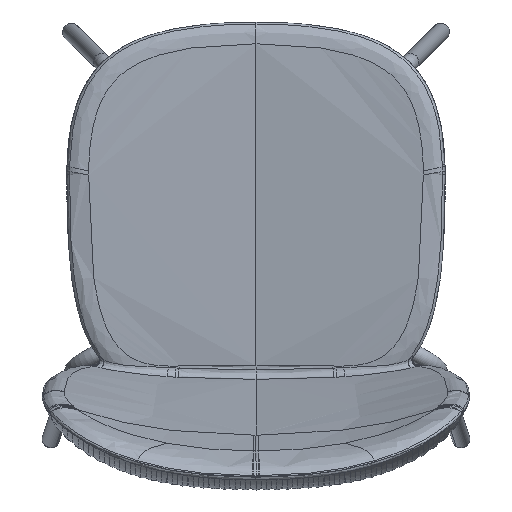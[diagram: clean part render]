
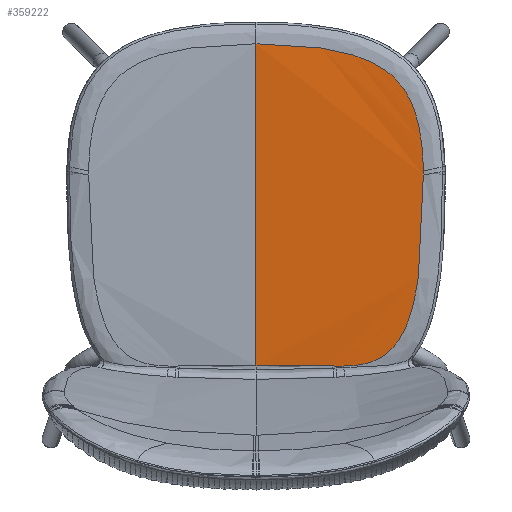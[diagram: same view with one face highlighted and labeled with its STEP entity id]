
A CAD part, top view. The second image highlights one B-rep face of the part: STEP entity #359222.
In plain terms, the highlighted free-form (B-spline) face has degree [5, 1] with [6, 2] control points.
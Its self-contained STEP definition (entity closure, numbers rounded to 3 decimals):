
#321123=CARTESIAN_POINT('Vertex',(0.,394.686,458.71)) ;
#321127=CARTESIAN_POINT('Control Point',(0.,394.686,458.71)) ;
#321128=CARTESIAN_POINT('Control Point',(11.598,394.686,458.71)) ;
#321129=CARTESIAN_POINT('Control Point',(23.195,394.455,458.819)) ;
#321130=CARTESIAN_POINT('Control Point',(34.538,393.962,459.031)) ;
#321131=CARTESIAN_POINT('Control Point',(55.247,392.574,459.591)) ;
#321132=CARTESIAN_POINT('Control Point',(76.746,389.767,460.511)) ;
#321133=CARTESIAN_POINT('Control Point',(86.215,388.17,460.985)) ;
#321134=CARTESIAN_POINT('Control Point',(101.418,384.997,461.836)) ;
#321135=CARTESIAN_POINT('Control Point',(116.638,380.273,462.817)) ;
#321136=CARTESIAN_POINT('Control Point',(122.396,378.203,463.205)) ;
#321137=CARTESIAN_POINT('Control Point',(133.26,373.662,463.959)) ;
#321138=CARTESIAN_POINT('Control Point',(143.537,367.828,464.691)) ;
#321139=CARTESIAN_POINT('Control Point',(148.302,364.678,465.029)) ;
#321140=CARTESIAN_POINT('Control Point',(156.936,357.933,465.624)) ;
#321141=CARTESIAN_POINT('Control Point',(164.378,349.934,466.076)) ;
#321142=CARTESIAN_POINT('Control Point',(167.633,345.823,466.253)) ;
#321143=CARTESIAN_POINT('Control Point',(174.658,335.419,466.572)) ;
#321144=CARTESIAN_POINT('Control Point',(179.918,323.968,466.652)) ;
#321145=CARTESIAN_POINT('Control Point',(182.439,317.049,466.622)) ;
#321146=CARTESIAN_POINT('Control Point',(187.585,299.4,466.385)) ;
#321147=CARTESIAN_POINT('Control Point',(190.252,281.534,465.818)) ;
#321148=CARTESIAN_POINT('Control Point',(191.277,270.702,465.392)) ;
#321149=CARTESIAN_POINT('Control Point',(191.778,259.649,464.882)) ;
#321150=CARTESIAN_POINT('Control Point',(191.871,248.808,464.327)) ;
#321151=CARTESIAN_POINT('Vertex',(191.871,248.808,464.327)) ;
#359044=CARTESIAN_POINT('Control Point',(191.871,248.808,464.327)) ;
#359045=CARTESIAN_POINT('Control Point',(191.879,247.872,464.279)) ;
#359046=CARTESIAN_POINT('Control Point',(191.886,246.938,464.231)) ;
#359047=CARTESIAN_POINT('Control Point',(191.893,246.003,464.183)) ;
#359048=CARTESIAN_POINT('Control Point',(191.899,245.066,464.135)) ;
#359049=CARTESIAN_POINT('Control Point',(191.904,244.132,464.087)) ;
#359050=CARTESIAN_POINT('Vertex',(191.904,244.132,464.087)) ;
#359132=CARTESIAN_POINT('Control Point',(191.94,24.396,452.576)) ;
#359133=CARTESIAN_POINT('Control Point',(191.94,394.06,471.949)) ;
#359134=CARTESIAN_POINT('Control Point',(153.777,24.674,447.282)) ;
#359135=CARTESIAN_POINT('Control Point',(153.777,394.338,466.655)) ;
#359136=CARTESIAN_POINT('Control Point',(115.474,24.882,443.311)) ;
#359137=CARTESIAN_POINT('Control Point',(115.474,394.546,462.685)) ;
#359138=CARTESIAN_POINT('Control Point',(77.044,25.02,440.664)) ;
#359139=CARTESIAN_POINT('Control Point',(77.044,394.685,460.037)) ;
#359140=CARTESIAN_POINT('Control Point',(38.522,25.09,439.341)) ;
#359141=CARTESIAN_POINT('Control Point',(38.522,394.754,458.714)) ;
#359142=CARTESIAN_POINT('Control Point',(0.,25.09,439.341)) ;
#359143=CARTESIAN_POINT('Control Point',(0.,394.754,458.714)) ;
#359145=CARTESIAN_POINT('Control Point',(87.58,25.119,442.091)) ;
#359146=CARTESIAN_POINT('Control Point',(80.191,25.143,441.628)) ;
#359147=CARTESIAN_POINT('Control Point',(72.94,25.164,441.222)) ;
#359148=CARTESIAN_POINT('Control Point',(65.691,25.183,440.863)) ;
#359149=CARTESIAN_POINT('Control Point',(48.464,25.222,440.12)) ;
#359150=CARTESIAN_POINT('Control Point',(31.094,25.247,439.639)) ;
#359151=CARTESIAN_POINT('Control Point',(20.768,25.257,439.446)) ;
#359152=CARTESIAN_POINT('Control Point',(10.384,25.262,439.35)) ;
#359153=CARTESIAN_POINT('Control Point',(0.,25.262,439.35)) ;
#359154=CARTESIAN_POINT('Vertex',(87.58,25.119,442.091)) ;
#359156=CARTESIAN_POINT('Vertex',(0.,25.262,439.35)) ;
#359160=CARTESIAN_POINT('Control Point',(99.802,25.077,442.911)) ;
#359161=CARTESIAN_POINT('Control Point',(97.358,25.086,442.736)) ;
#359162=CARTESIAN_POINT('Control Point',(94.914,25.095,442.567)) ;
#359163=CARTESIAN_POINT('Control Point',(92.47,25.103,442.403)) ;
#359164=CARTESIAN_POINT('Control Point',(90.025,25.112,442.244)) ;
#359165=CARTESIAN_POINT('Control Point',(87.58,25.12,442.091)) ;
#359166=CARTESIAN_POINT('Vertex',(99.802,25.077,442.911)) ;
#359170=CARTESIAN_POINT('Control Point',(191.904,244.132,464.087)) ;
#359171=CARTESIAN_POINT('Control Point',(191.947,236.621,463.699)) ;
#359172=CARTESIAN_POINT('Control Point',(191.946,229.168,463.308)) ;
#359173=CARTESIAN_POINT('Control Point',(191.902,221.797,462.916)) ;
#359174=CARTESIAN_POINT('Control Point',(191.723,207.044,462.118)) ;
#359175=CARTESIAN_POINT('Control Point',(191.331,192.343,461.293)) ;
#359176=CARTESIAN_POINT('Control Point',(191.073,184.965,460.87)) ;
#359177=CARTESIAN_POINT('Control Point',(190.628,175.065,460.29)) ;
#359178=CARTESIAN_POINT('Control Point',(190.016,165.077,459.682)) ;
#359179=CARTESIAN_POINT('Control Point',(189.852,162.586,459.529)) ;
#359180=CARTESIAN_POINT('Control Point',(189.298,154.698,459.04)) ;
#359181=CARTESIAN_POINT('Control Point',(188.617,146.77,458.531)) ;
#359182=CARTESIAN_POINT('Control Point',(188.086,141.366,458.175)) ;
#359183=CARTESIAN_POINT('Control Point',(186.898,130.778,457.459)) ;
#359184=CARTESIAN_POINT('Control Point',(185.381,120.283,456.704)) ;
#359185=CARTESIAN_POINT('Control Point',(184.542,115.132,456.322)) ;
#359186=CARTESIAN_POINT('Control Point',(183.326,108.523,455.813)) ;
#359187=CARTESIAN_POINT('Control Point',(181.892,101.922,455.278)) ;
#359188=CARTESIAN_POINT('Control Point',(181.563,100.463,455.159)) ;
#359189=CARTESIAN_POINT('Control Point',(179.591,92.007,454.457)) ;
#359190=CARTESIAN_POINT('Control Point',(177.21,83.607,453.708)) ;
#359191=CARTESIAN_POINT('Control Point',(174.907,76.773,453.055)) ;
#359192=CARTESIAN_POINT('Control Point',(170.257,65.345,451.872)) ;
#359193=CARTESIAN_POINT('Control Point',(164.012,54.753,450.566)) ;
#359194=CARTESIAN_POINT('Control Point',(161.082,50.524,449.998)) ;
#359195=CARTESIAN_POINT('Control Point',(156.815,45.45,449.242)) ;
#359196=CARTESIAN_POINT('Control Point',(151.93,41.023,448.471)) ;
#359197=CARTESIAN_POINT('Control Point',(150.793,40.057,448.296)) ;
#359198=CARTESIAN_POINT('Control Point',(146.34,36.517,447.629)) ;
#359199=CARTESIAN_POINT('Control Point',(141.468,33.549,446.966)) ;
#359200=CARTESIAN_POINT('Control Point',(137.681,31.705,446.487)) ;
#359201=CARTESIAN_POINT('Control Point',(132.561,29.721,445.885)) ;
#359202=CARTESIAN_POINT('Control Point',(127.255,28.227,445.317)) ;
#359203=CARTESIAN_POINT('Control Point',(126.014,27.906,445.187)) ;
#359204=CARTESIAN_POINT('Control Point',(120.132,26.509,444.584)) ;
#359205=CARTESIAN_POINT('Control Point',(114.11,25.639,444.028)) ;
#359206=CARTESIAN_POINT('Control Point',(109.335,25.235,443.623)) ;
#359207=CARTESIAN_POINT('Control Point',(104.563,25.059,443.251)) ;
#359208=CARTESIAN_POINT('Control Point',(99.802,25.077,442.911)) ;
#359211=CARTESIAN_POINT('Control Point',(0.,25.262,439.35)) ;
#359212=CARTESIAN_POINT('Control Point',(0.,394.686,458.71)) ;
#321153=EDGE_CURVE('',#321124,#321152,#321126,.T.) ;
#359052=EDGE_CURVE('',#321152,#359051,#359043,.T.) ;
#359158=EDGE_CURVE('',#359155,#359157,#359144,.T.) ;
#359168=EDGE_CURVE('',#359167,#359155,#359159,.T.) ;
#359209=EDGE_CURVE('',#359051,#359167,#359169,.T.) ;
#359213=EDGE_CURVE('',#359157,#321124,#359210,.T.) ;
#359215=ORIENTED_EDGE('',*,*,#359158,.F.) ;
#359216=ORIENTED_EDGE('',*,*,#359168,.F.) ;
#359217=ORIENTED_EDGE('',*,*,#359209,.F.) ;
#359218=ORIENTED_EDGE('',*,*,#359052,.F.) ;
#359219=ORIENTED_EDGE('',*,*,#321153,.F.) ;
#359220=ORIENTED_EDGE('',*,*,#359213,.F.) ;
#359214=EDGE_LOOP('',(#359215,#359216,#359217,#359218,#359219,#359220)) ;
#321124=VERTEX_POINT('',#321123) ;
#321152=VERTEX_POINT('',#321151) ;
#359051=VERTEX_POINT('',#359050) ;
#359155=VERTEX_POINT('',#359154) ;
#359157=VERTEX_POINT('',#359156) ;
#359167=VERTEX_POINT('',#359166) ;
#359222=ADVANCED_FACE('FADE-Stack-Chair-Elemento-Scocca',(#359221),#359131,.F.) ;
#321126=B_SPLINE_CURVE_WITH_KNOTS('',5,(#321127,#321128,#321129,#321130,#321131,#321132,#321133,#321134,#321135,#321136,#321137,#321138,#321139,#321140,#321141,#321142,#321143,#321144,#321145,#321146,#321147,#321148,#321149,#321150),.UNSPECIFIED.,.F.,.U.,(6,3,3,3,3,3,3,6),(0.,62.328,114.007,146.427,176.659,204.526,243.317,301.392),.UNSPECIFIED.) ;
#359043=B_SPLINE_CURVE_WITH_KNOTS('',5,(#359044,#359045,#359046,#359047,#359048,#359049),.UNSPECIFIED.,.F.,.U.,(6,6),(0.,5.015),.UNSPECIFIED.) ;
#359144=B_SPLINE_CURVE_WITH_KNOTS('',5,(#359145,#359146,#359147,#359148,#359149,#359150,#359151,#359152,#359153),.UNSPECIFIED.,.F.,.U.,(6,3,6),(0.,51.52,123.795),.UNSPECIFIED.) ;
#359159=B_SPLINE_CURVE_WITH_KNOTS('',5,(#359160,#359161,#359162,#359163,#359164,#359165),.UNSPECIFIED.,.F.,.U.,(6,6),(220.093,232.35),.UNSPECIFIED.) ;
#359169=B_SPLINE_CURVE_WITH_KNOTS('',5,(#359170,#359171,#359172,#359173,#359174,#359175,#359176,#359177,#359178,#359179,#359180,#359181,#359182,#359183,#359184,#359185,#359186,#359187,#359188,#359189,#359190,#359191,#359192,#359193,#359194,#359195,#359196,#359197,#359198,#359199,#359200,#359201,#359202,#359203,#359204,#359205,#359206,#359207,#359208),.UNSPECIFIED.,.F.,.U.,(6,3,3,3,3,3,3,3,3,3,3,3,6),(0.,53.162,106.715,124.47,162.756,199.905,210.511,261.114,297.261,307.834,337.583,346.576,379.962),.UNSPECIFIED.) ;
#359210=B_SPLINE_CURVE_WITH_KNOTS('',1,(#359211,#359212),.UNSPECIFIED.,.F.,.U.,(2,2),(25.558,395.49),.UNSPECIFIED.) ;
#359131=B_SPLINE_SURFACE_WITH_KNOTS('',5,1,((#359132,#359133),(#359134,#359135),(#359136,#359137),(#359138,#359139),(#359140,#359141),(#359142,#359143)),.UNSPECIFIED.,.F.,.F.,.U.,(6,6),(2,2),(127.386,320.012),(25.386,395.558),.UNSPECIFIED.) ;
#359221=FACE_OUTER_BOUND('',#359214,.T.) ;
